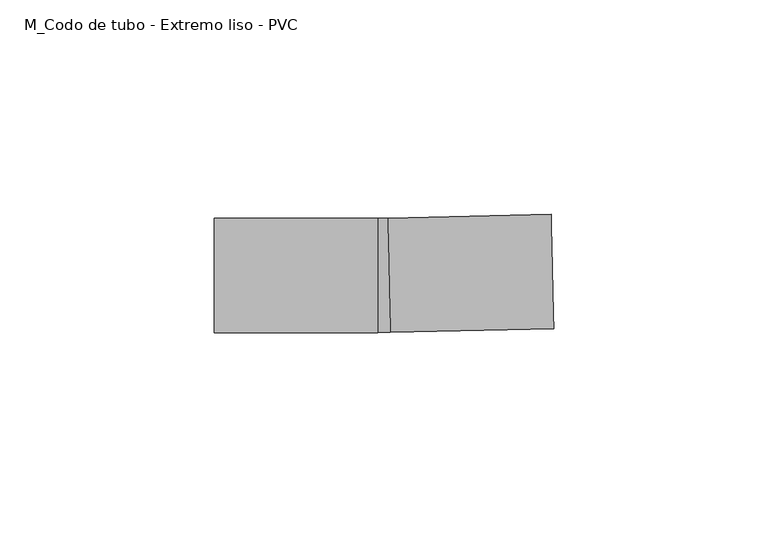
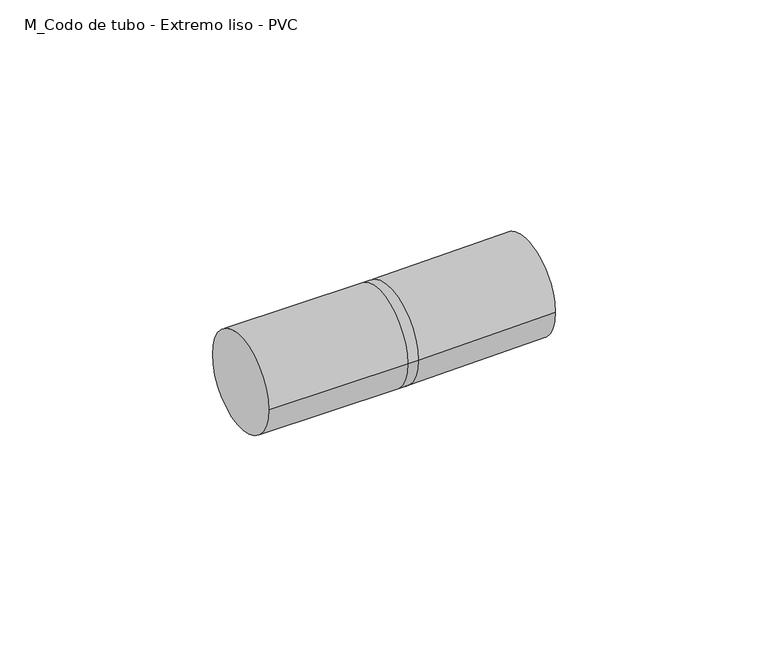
"""IFC4 building model written with IfcOpenShell, lengths in millimetres: cable carrier fitting geometry, M_Codo de tubo - Extremo liso - PVC : CODO ILUMINACION."""

from ifc_helpers import new_model, si_unit, point, frame, origin, place, context, project, spatial, circle_curve, ellipse_curve, trimmed, source, transform, mapped, element, save
from ifc_brep_helpers import plane_surface, cylinder_surface, revolved_surface, advanced_brep


def m_codo_de_tubo_extremo_liso_pvc_d8cff154(model_context):
    return source(origin(), model_context, "Body", "AdvancedBrep", [
        advanced_brep(
        [(-39.427916, -13.335, 0.0), (-39.427916, 13.335, 0.0), (-1.327916, -13.335, 0.0), (-1.327916, 13.335, 0.0), (1.0177523, 13.3622515, 0.0), (1.6373628, -13.3005499, 0.0), (39.7270792, -12.4153921, 0.0), (39.1074687, 14.2474094, 0.0)],
        [
            (0, 1, circle_curve(frame((-39.427916, 0.0, 0.0), z_axis=(-1.0, 0.0, 0.0), x_axis=(0.0, 1.0, 0.0)), 13.335)),
            (1, 0, circle_curve(frame((-39.427916, 0.0, 0.0), z_axis=(-1.0, 0.0, 0.0), x_axis=(0.0, 1.0, 0.0)), 13.335)),
            (0, 2),
            (2, 3, circle_curve(frame((-1.327916, 0.0, 0.0), z_axis=(-1.0, 0.0, 0.0), x_axis=(0.0, 1.0, 0.0)), 13.335)),
            (3, 1),
            (3, 2, circle_curve(frame((-1.327916, 0.0, 0.0), z_axis=(-1.0, 0.0, 0.0), x_axis=(0.0, 1.0, 0.0)), 13.335)),
            (4, 3, circle_curve(frame((-1.327916, 114.3, 0.0), z_axis=(0.0, 0.0, -1.0), x_axis=(0.0, -1.0, 0.0)), 100.965)),
            (2, 5, circle_curve(frame((-1.327916, 114.3, 0.0), z_axis=(0.0, 0.0, 1.0), x_axis=(0.0, -1.0, 0.0)), 127.635)),
            (5, 4, circle_curve(frame((1.3275575, 0.0308508, 0.0), z_axis=(-0.9997300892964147, -0.023232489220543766, 0.0), x_axis=(-0.023232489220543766, 0.9997300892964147, 0.0)), 13.335)),
            (4, 5, circle_curve(frame((1.3275575, 0.0308508, 0.0), z_axis=(-0.9997300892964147, -0.023232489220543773, 0.0), x_axis=(-0.023232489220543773, 0.9997300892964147, 0.0)), 13.335)),
            (6, 7, circle_curve(frame((39.417274, 0.9160086, 0.0), z_axis=(0.9997300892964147, 0.023232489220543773, 0.0), x_axis=(-0.023232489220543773, 0.9997300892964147, 0.0)), 13.335)),
            (7, 6, circle_curve(frame((39.417274, 0.9160086, 0.0), z_axis=(0.9997300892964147, 0.023232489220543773, 0.0), x_axis=(-0.023232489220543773, 0.9997300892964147, 0.0)), 13.335)),
            (5, 6),
            (7, 4),
        ],
        [
            plane_surface(frame((-39.427916, 0.0, 0.0), z_axis=(-1.0, 0.0, 0.0), x_axis=(0.0, 0.0, 1.0))),
            cylinder_surface(frame((-39.427916, 0.0, 0.0), z_axis=(-1.0, 0.0, 0.0), x_axis=(0.0, 1.0, 0.0)), 13.335),
            revolved_surface(trimmed(ellipse_curve(frame((-1.327916, 0.0, 0.0), z_axis=(-1.0, 0.0, 0.0), x_axis=(0.0, 1.0, 0.0)), 13.335, 13.335), [point((-1.327916, -13.335, 0.0))], [point((-1.327916, 13.335, 0.0))], True, "CARTESIAN"), (-1.327916, 114.3, 0.0), (0.0, 0.0, 1.0)),
            revolved_surface(trimmed(ellipse_curve(frame((-1.327916, 0.0, 0.0), z_axis=(-1.0, 0.0, 0.0), x_axis=(0.0, 1.0, 0.0)), 13.335, 13.335), [point((-1.327916, 13.335, 0.0))], [point((-1.327916, -13.335, 0.0))], True, "CARTESIAN"), (-1.327916, 114.3, 0.0), (0.0, 0.0, 1.0)),
            plane_surface(frame((39.417274, 0.9160086, 0.0), z_axis=(0.9997300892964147, 0.023232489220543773, 0.0), x_axis=(0.0, 0.0, 1.0))),
            cylinder_surface(frame((1.3275575, 0.0308508, 0.0), z_axis=(-0.9997300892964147, -0.023232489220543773, 0.0), x_axis=(-0.023232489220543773, 0.9997300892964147, 0.0)), 13.335),
        ],
        [
            (0, [[1, 2]]),
            (1, [[-1, 3, 4, 5]]),
            (1, [[-2, -5, 6, -3]]),
            (2, [[7, -4, 8, 9]]),
            (3, [[-8, -6, -7, 10]]),
            (4, [[11, 12]]),
            (5, [[-9, 13, -12, 14]]),
            (5, [[-10, -14, -11, -13]]),
        ],
    ),
    ])


if __name__ == "__main__":
    model = new_model("IFC4")
    model_context = context("Model", 3, world=origin())
    ifc_project = project(units=[si_unit("LENGTHUNIT", "METRE", prefix="MILLI")], contexts=[model_context])
    site = spatial("IfcSite", under=ifc_project)
    building = spatial("IfcBuilding", under=site)
    placement = place(None, origin())
    m_codo_de_tubo_extremo_liso_pvc_shape = m_codo_de_tubo_extremo_liso_pvc_d8cff154(model_context)
    element("IfcCableCarrierFitting", 1, ObjectType="M_Codo de tubo - Extremo liso - PVC : CODO ILUMINACION", at=placement, inside=building, context=model_context, shape_type="MappedRepresentation", body=[
        mapped(m_codo_de_tubo_extremo_liso_pvc_shape, transform((0.0, 0.0, 0.0), x_axis=(1.0, 0.0, 0.0), y_axis=(0.0, 1.0, 0.0), z_axis=(0.0, 0.0, 1.0))),
    ])
    save(model, "model.ifc")
